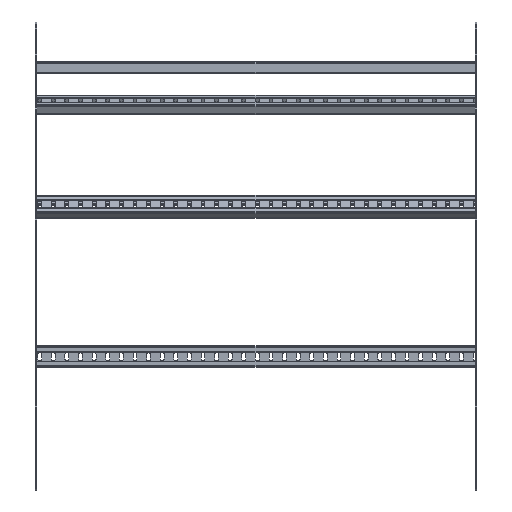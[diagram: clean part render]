
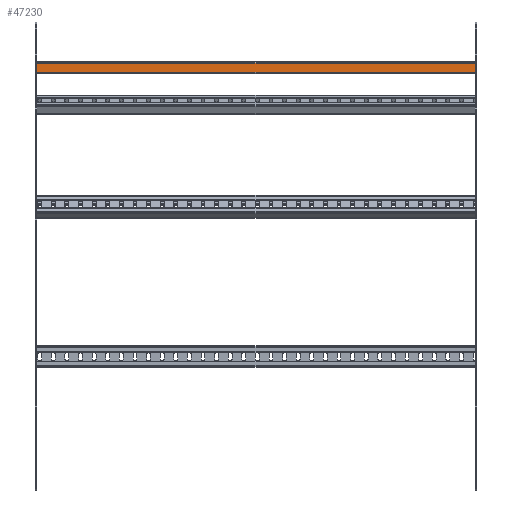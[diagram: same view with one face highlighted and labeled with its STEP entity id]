
A CAD part, left-side view. The second image highlights one B-rep face of the part: STEP entity #47230.
In plain terms, the highlighted planar face has unit normal (-1, 0, 0).
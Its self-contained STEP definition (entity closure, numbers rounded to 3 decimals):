
#46840=CARTESIAN_POINT('',(-1.194,-4.267,-100.));
#46850=DIRECTION('',(-1.,0.,0.));
#46860=DIRECTION('',(0.,1.,0.));
#46870=AXIS2_PLACEMENT_3D('',#46840,#46850,#46860);
#46880=PLANE('',#46870);
#46890=CARTESIAN_POINT('',(-1.194,0.,730.));
#46900=DIRECTION('',(0.,-1.,0.));
#46910=VECTOR('',#46900,1.);
#46920=LINE('',#46890,#46910);
#46930=CARTESIAN_POINT('',(-1.194,14.733,730.));
#46940=VERTEX_POINT('',#46930);
#46950=CARTESIAN_POINT('',(-1.194,-1.267,730.));
#46960=VERTEX_POINT('',#46950);
#46970=EDGE_CURVE('',#46940,#46960,#46920,.T.);
#46980=ORIENTED_EDGE('',*,*,#46970,.F.);
#46990=CARTESIAN_POINT('',(-1.194,-1.267,-100.));
#47000=DIRECTION('',(0.,0.,1.));
#47010=VECTOR('',#47000,1.);
#47020=LINE('',#46990,#47010);
#47030=CARTESIAN_POINT('',(-1.194,-1.267,-75.));
#47040=VERTEX_POINT('',#47030);
#47050=EDGE_CURVE('',#47040,#46960,#47020,.T.);
#47060=ORIENTED_EDGE('',*,*,#47050,.T.);
#47070=CARTESIAN_POINT('',(-1.194,17.733,-75.));
#47080=DIRECTION('',(0.,-1.,0.));
#47090=VECTOR('',#47080,1.);
#47100=LINE('',#47070,#47090);
#47110=CARTESIAN_POINT('',(-1.194,14.733,-75.));
#47120=VERTEX_POINT('',#47110);
#47130=EDGE_CURVE('',#47120,#47040,#47100,.T.);
#47140=ORIENTED_EDGE('',*,*,#47130,.T.);
#47150=CARTESIAN_POINT('',(-1.194,14.733,0.));
#47160=DIRECTION('',(0.,0.,1.));
#47170=VECTOR('',#47160,1.);
#47180=LINE('',#47150,#47170);
#47190=EDGE_CURVE('',#47120,#46940,#47180,.T.);
#47200=ORIENTED_EDGE('',*,*,#47190,.F.);
#47210=EDGE_LOOP('',(#47200,#47140,#47060,#46980));
#47220=FACE_OUTER_BOUND('',#47210,.T.);
#47230=ADVANCED_FACE('',(#47220),#46880,.T.);
